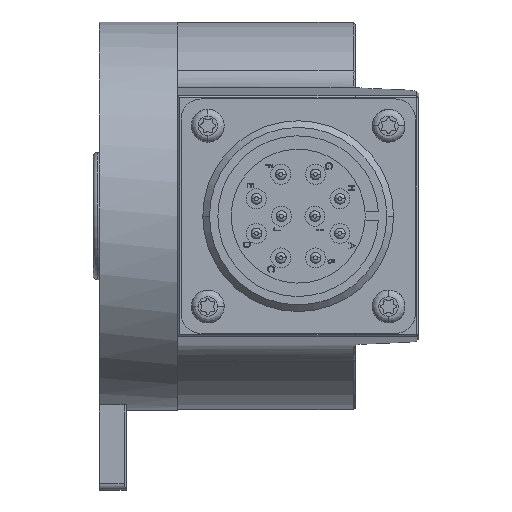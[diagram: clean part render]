
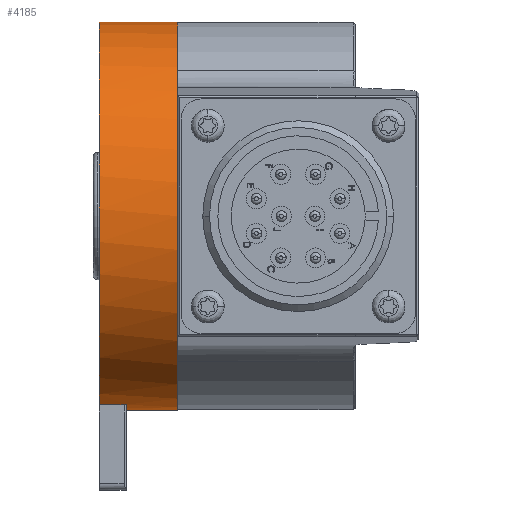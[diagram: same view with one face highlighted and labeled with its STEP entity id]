
A CAD part, front view. The second image highlights one B-rep face of the part: STEP entity #4185.
In plain terms, the highlighted cylindrical face has radius 29 mm (diameter 58 mm), a partial arc.
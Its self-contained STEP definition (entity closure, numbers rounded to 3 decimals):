
#602 = DIRECTION ( 'NONE',  ( 0., 0., 1. ) ) ;
#1798 = EDGE_CURVE ( 'NONE', #20915, #9335, #12478, .T. ) ;
#4185 = ADVANCED_FACE ( 'NONE', ( #14630 ), #5641, .T. ) ;
#4627 = DIRECTION ( 'NONE',  ( 0., 0., -1. ) ) ;
#4686 = CARTESIAN_POINT ( 'NONE',  ( 8.068, 18.423, -28.142 ) ) ;
#4723 = EDGE_LOOP ( 'NONE', ( #10386, #19965, #6604, #9927, #19580, #16628 ) ) ;
#4887 = CARTESIAN_POINT ( 'NONE',  ( 0.378, 18.423, -28.142 ) ) ;
#5641 = CYLINDRICAL_SURFACE ( 'NONE', #8495, 29. ) ;
#6604 = ORIENTED_EDGE ( 'NONE', *, *, #10089, .F. ) ;
#7388 = DIRECTION ( 'NONE',  ( 1., 0., 0. ) ) ;
#8114 = CARTESIAN_POINT ( 'NONE',  ( 8.068, 25.423, 0. ) ) ;
#8495 = AXIS2_PLACEMENT_3D ( 'NONE', #19908, #7388, #20454 ) ;
#8803 = AXIS2_PLACEMENT_3D ( 'NONE', #19023, #13511, #4627 ) ;
#9324 = CARTESIAN_POINT ( 'NONE',  ( 8.068, 25.423, 29. ) ) ;
#9335 = VERTEX_POINT ( 'NONE', #10937 ) ;
#9836 = VERTEX_POINT ( 'NONE', #22408 ) ;
#9927 = ORIENTED_EDGE ( 'NONE', *, *, #1798, .T. ) ;
#10089 = EDGE_CURVE ( 'NONE', #20915, #19565, #22831, .T. ) ;
#10386 = ORIENTED_EDGE ( 'NONE', *, *, #11418, .F. ) ;
#10937 = CARTESIAN_POINT ( 'NONE',  ( 0.378, 25.423, -29. ) ) ;
#11033 = CIRCLE ( 'NONE', #8803, 29. ) ;
#11334 = LINE ( 'NONE', #14721, #14266 ) ;
#11418 = EDGE_CURVE ( 'NONE', #9836, #15853, #11334, .T. ) ;
#12478 = CIRCLE ( 'NONE', #14336, 29. ) ;
#13225 = DIRECTION ( 'NONE',  ( 1., 0., 0. ) ) ;
#13511 = DIRECTION ( 'NONE',  ( 1., 0., 0. ) ) ;
#13882 = CARTESIAN_POINT ( 'NONE',  ( -3.622, 18.423, -28.142 ) ) ;
#14266 = VECTOR ( 'NONE', #21871, 1000. ) ;
#14336 = AXIS2_PLACEMENT_3D ( 'NONE', #20715, #13225, #602 ) ;
#14617 = CIRCLE ( 'NONE', #22478, 29. ) ;
#14630 = FACE_OUTER_BOUND ( 'NONE', #4723, .T. ) ;
#14721 = CARTESIAN_POINT ( 'NONE',  ( 8.068, 25.423, 29. ) ) ;
#15248 = DIRECTION ( 'NONE',  ( 0., 0., -1. ) ) ;
#15853 = VERTEX_POINT ( 'NONE', #9324 ) ;
#16628 = ORIENTED_EDGE ( 'NONE', *, *, #18445, .F. ) ;
#17310 = CARTESIAN_POINT ( 'NONE',  ( 8.068, 25.423, -29. ) ) ;
#17366 = EDGE_CURVE ( 'NONE', #9335, #19086, #19531, .T. ) ;
#18445 = EDGE_CURVE ( 'NONE', #15853, #19086, #14617, .T. ) ;
#19023 = CARTESIAN_POINT ( 'NONE',  ( -3.622, 25.423, 0. ) ) ;
#19086 = VERTEX_POINT ( 'NONE', #17310 ) ;
#19531 = LINE ( 'NONE', #19646, #21454 ) ;
#19565 = VERTEX_POINT ( 'NONE', #13882 ) ;
#19580 = ORIENTED_EDGE ( 'NONE', *, *, #17366, .T. ) ;
#19646 = CARTESIAN_POINT ( 'NONE',  ( 8.068, 25.423, -29. ) ) ;
#19908 = CARTESIAN_POINT ( 'NONE',  ( 8.068, 25.423, 0. ) ) ;
#19965 = ORIENTED_EDGE ( 'NONE', *, *, #21263, .T. ) ;
#20454 = DIRECTION ( 'NONE',  ( 0., 0., -1. ) ) ;
#20715 = CARTESIAN_POINT ( 'NONE',  ( 0.378, 25.423, 0. ) ) ;
#20915 = VERTEX_POINT ( 'NONE', #4887 ) ;
#20963 = VECTOR ( 'NONE', #22602, 1000. ) ;
#21263 = EDGE_CURVE ( 'NONE', #9836, #19565, #11033, .T. ) ;
#21454 = VECTOR ( 'NONE', #22829, 1000. ) ;
#21871 = DIRECTION ( 'NONE',  ( 1., 0., 0. ) ) ;
#22283 = DIRECTION ( 'NONE',  ( 1., 0., 0. ) ) ;
#22408 = CARTESIAN_POINT ( 'NONE',  ( -3.622, 25.423, 29. ) ) ;
#22478 = AXIS2_PLACEMENT_3D ( 'NONE', #8114, #22283, #15248 ) ;
#22602 = DIRECTION ( 'NONE',  ( -1., 0., 0. ) ) ;
#22829 = DIRECTION ( 'NONE',  ( 1., 0., 0. ) ) ;
#22831 = LINE ( 'NONE', #4686, #20963 ) ;
